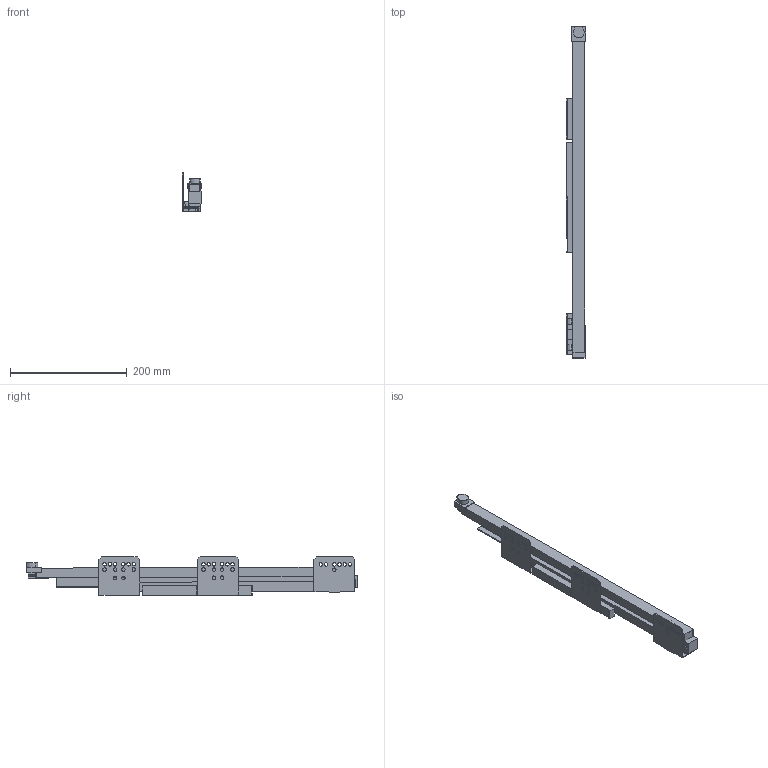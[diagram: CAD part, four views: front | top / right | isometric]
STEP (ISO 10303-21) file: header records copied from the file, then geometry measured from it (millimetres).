
FILE_DESCRIPTION (( 'STEP AP214' ), '1' );
FILE_NAME ('_IMOS Dynamic-XP VA 60kg NL550 LI Tipmatic.step', '2010-07-08T13:27:03', ( 'grass' ), ( '' ), 'SwSTEP 2.0', 'SolidWorks 2010', '' );
FILE_SCHEMA (( 'AUTOMOTIVE_DESIGN' ));
Length unit declared in the file: millimetre
Products named in the file (1): _IMOS Dynamic-XP VA 60kg NL550 LI Tipmatic
Bounding box: 33.14 x 568.02 x 66.67 mm (x, y, z)
Volume: 481800 mm3; surface area: 185012.4 mm2
Topology: 9 solids, 9 shells, 238 faces, 652 edges, 434 vertices
Faces by surface type: plane 167, cylinder 71
Entity records: 7758 total; most frequent: CARTESIAN_POINT 1325, ORIENTED_EDGE 1304, DIRECTION 1274, EDGE_CURVE 652, LINE 508, VECTOR 508, VERTEX_POINT 434, AXIS2_PLACEMENT_3D 383
